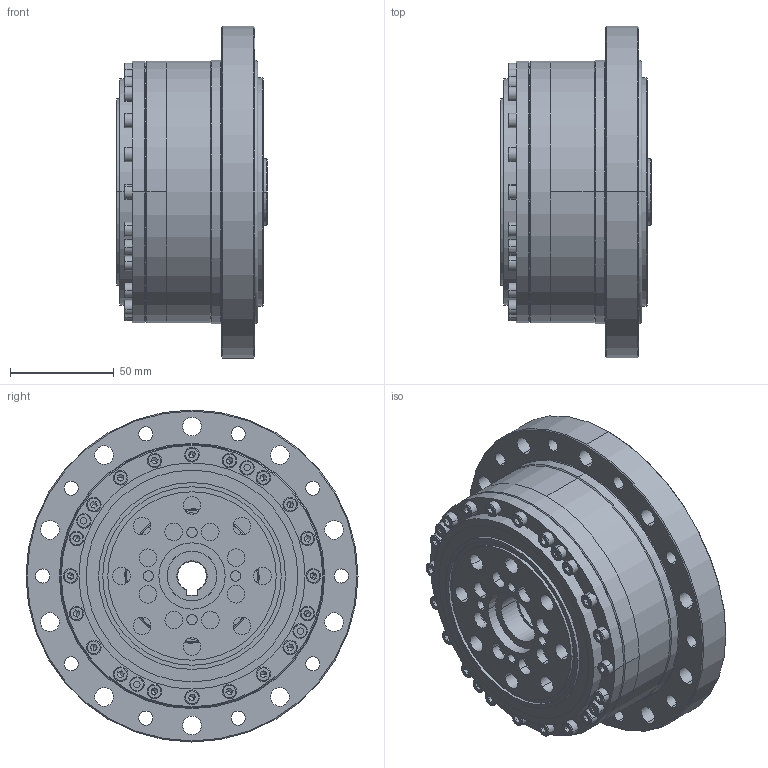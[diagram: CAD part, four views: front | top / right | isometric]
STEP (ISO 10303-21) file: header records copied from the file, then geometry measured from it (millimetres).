
FILE_DESCRIPTION (( 'STEP AP203' ), '1' );
FILE_NAME ('FCG-40-XXX-AO.STEP', '2019-06-05T06:50:57', ( '' ), ( '' ), 'SwSTEP 2.0', 'SolidWorks 2016', '' );
FILE_SCHEMA (( 'CONFIG_CONTROL_DESIGN' ));
Length unit declared in the file: millimetre
Products named in the file (1): FCG-40-XXX-AO
Bounding box: 72.5 x 160 x 160 mm (x, y, z)
Volume: 654653.6 mm3; surface area: 300309.7 mm2
Topology: 71 solids, 71 shells, 1565 faces, 3721 edges, 2284 vertices
Faces by surface type: cylinder 581, plane 565, cone 205, torus 120, bspline 48, sphere 46
Entity records: 48564 total; most frequent: CARTESIAN_POINT 11999, DIRECTION 8225, ORIENTED_EDGE 7052, EDGE_CURVE 3526, AXIS2_PLACEMENT_3D 3305, VERTEX_POINT 2215, EDGE_LOOP 1923, CIRCLE 1787
